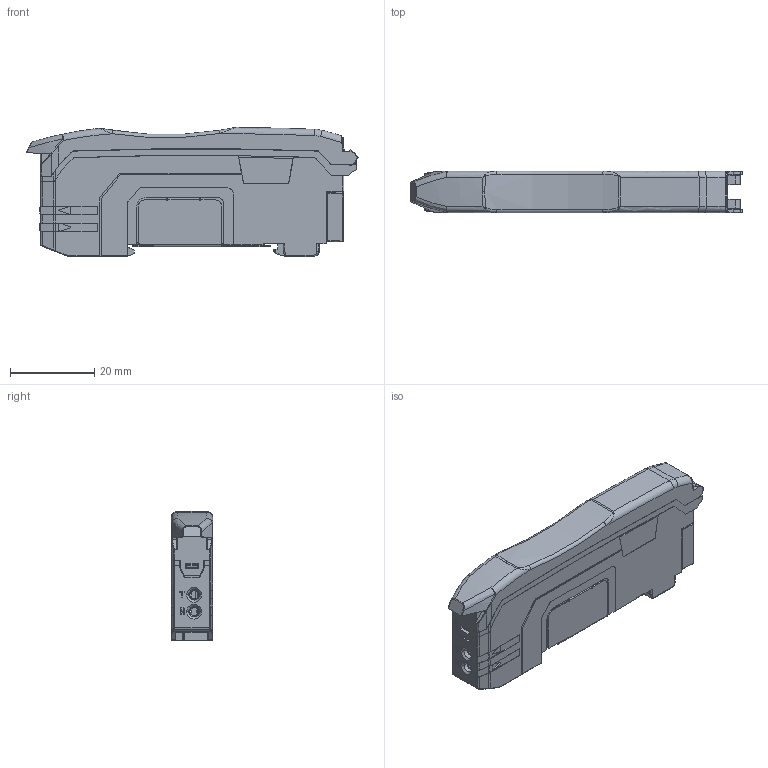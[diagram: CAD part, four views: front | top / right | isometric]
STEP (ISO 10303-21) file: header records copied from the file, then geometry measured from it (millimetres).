
FILE_DESCRIPTION((''),'2;1');
FILE_NAME('0002_ASM_20200507PM_ASM','2021-04-27T',('gfdsa'),(''),'CREO PARAMETRIC BY PTC INC, 2014440','CREO PARAMETRIC BY PTC INC, 2014440','');
FILE_SCHEMA(('AUTOMOTIVE_DESIGN { 1 0 10303 214 1 1 1 1 }'));
Products named in the file (20): ADMI77A4XSAX_1_36; ADMI77A4XSAX_2_29; ADMI77A4XSAX_3_1; ADMI77A4XSAX_4_1; ADMI77A4XSAX_5_39; ADMI77A4XSAX_6_1; ADMI77A4XSAX_7_1; ADMI77A4XSAX_8_1; ADMI77A4XSAX_9_1; ADMI77A4XSAX_11_1; ADMI77A4XSAX_12_1; ADMI77A4XSAX_13_1; ADMI77A4XSAX_14_1; ADMI77A4XSAX_15_1; ADMI77A4XSAX_16_1; ADMI77A4XSAX_ASM_1_ASM; 00_1-66940_46; 00_1-229921_46; 0002_ASM_68_ASM; 0002_ASM_20200507PM_ASM
Assembly tree (19 placements, depth 4):
  0002_ASM_20200507PM_ASM
    0002_ASM_68_ASM
      ADMI77A4XSAX_ASM_1_ASM
        ADMI77A4XSAX_1_36
        ADMI77A4XSAX_2_29
        ADMI77A4XSAX_3_1
        ADMI77A4XSAX_4_1
        ADMI77A4XSAX_5_39
        ADMI77A4XSAX_6_1
        ADMI77A4XSAX_7_1
        ADMI77A4XSAX_8_1
        ADMI77A4XSAX_9_1
        ADMI77A4XSAX_11_1
        ADMI77A4XSAX_12_1
        ADMI77A4XSAX_13_1
        ADMI77A4XSAX_14_1
        ADMI77A4XSAX_15_1
        ADMI77A4XSAX_16_1
      00_1-66940_46
      00_1-229921_46
Bounding box: 78.77 x 9.9 x 30.66 mm (x, y, z)
Volume: 9562.3 mm3; surface area: 23433.1 mm2
Topology: 15 solids, 21 shells, 3744 faces, 10495 edges, 6760 vertices
Faces by surface type: plane 1878, cylinder 969, bspline 291, cone 205, torus 163, extrusion 158, sphere 78, revolution 2
Entity records: 168532 total; most frequent: CARTESIAN_POINT 42968, ORIENTED_EDGE 20784, DIRECTION 17797, EDGE_CURVE 10413, PRESENTATION_STYLE_ASSIGNMENT 10269, STYLED_ITEM 10245, CURVE_STYLE 10229, VERTEX_POINT 6760
